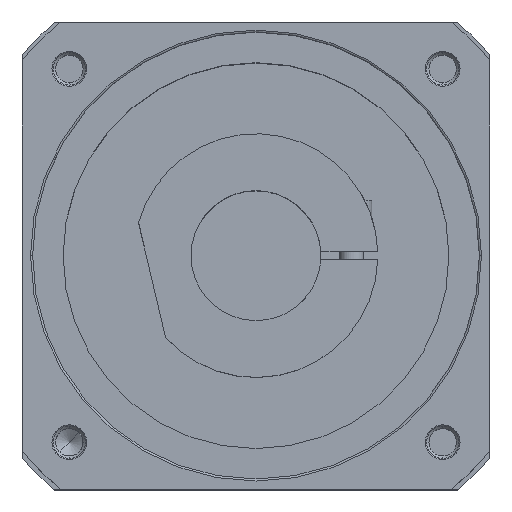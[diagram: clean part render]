
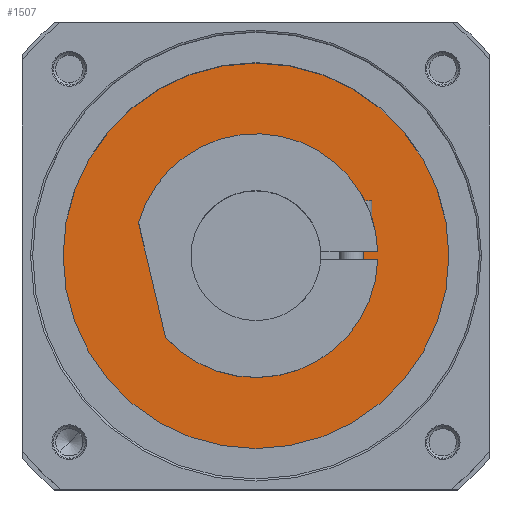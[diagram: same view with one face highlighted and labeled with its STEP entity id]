
A CAD part, top view. The second image highlights one B-rep face of the part: STEP entity #1507.
In plain terms, the highlighted planar face has unit normal (0, 0, 1).
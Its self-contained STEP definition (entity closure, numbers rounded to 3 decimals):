
#291=DIRECTION('',(-1.,0.,0.));
#292=VECTOR('',#291,7.16);
#293=CARTESIAN_POINT('',(53.12,37.46,61.));
#294=LINE('',#293,#292);
#295=CARTESIAN_POINT('',(0.,0.,61.));
#296=DIRECTION('',(0.,0.,-1.));
#297=DIRECTION('',(0.817,0.576,0.));
#298=AXIS2_PLACEMENT_3D('',#295,#296,#297);
#300=DIRECTION('',(0.,1.,0.));
#301=VECTOR('',#300,60.622);
#302=CARTESIAN_POINT('',(57.5,-30.311,61.));
#303=LINE('',#302,#301);
#304=CARTESIAN_POINT('',(0.,0.,61.));
#305=DIRECTION('',(0.,0.,-1.));
#306=DIRECTION('',(0.885,-0.466,0.));
#307=AXIS2_PLACEMENT_3D('',#304,#305,#306);
#309=DIRECTION('',(1.,0.,0.));
#310=VECTOR('',#309,7.16);
#311=CARTESIAN_POINT('',(45.96,-37.46,61.));
#312=LINE('',#311,#310);
#313=CARTESIAN_POINT('',(45.96,-45.96,61.));
#314=DIRECTION('',(0.,0.,-1.));
#315=DIRECTION('',(-1.,0.,0.));
#316=AXIS2_PLACEMENT_3D('',#313,#314,#315);
#318=DIRECTION('',(0.,1.,0.));
#319=VECTOR('',#318,7.16);
#320=CARTESIAN_POINT('',(37.46,-53.12,61.));
#321=LINE('',#320,#319);
#322=CARTESIAN_POINT('',(0.,0.,61.));
#323=DIRECTION('',(0.,0.,-1.));
#324=DIRECTION('',(0.576,-0.817,0.));
#325=AXIS2_PLACEMENT_3D('',#322,#323,#324);
#327=DIRECTION('',(1.,0.,0.));
#328=VECTOR('',#327,60.622);
#329=CARTESIAN_POINT('',(-30.311,-57.5,61.));
#330=LINE('',#329,#328);
#331=CARTESIAN_POINT('',(0.,0.,61.));
#332=DIRECTION('',(0.,0.,-1.));
#333=DIRECTION('',(-0.466,-0.885,0.));
#334=AXIS2_PLACEMENT_3D('',#331,#332,#333);
#336=DIRECTION('',(0.,-1.,0.));
#337=VECTOR('',#336,7.16);
#338=CARTESIAN_POINT('',(-37.46,-45.96,61.));
#339=LINE('',#338,#337);
#340=CARTESIAN_POINT('',(-45.96,-45.96,61.));
#341=DIRECTION('',(0.,0.,-1.));
#342=DIRECTION('',(0.,1.,0.));
#343=AXIS2_PLACEMENT_3D('',#340,#341,#342);
#345=DIRECTION('',(1.,0.,0.));
#346=VECTOR('',#345,7.16);
#347=CARTESIAN_POINT('',(-53.12,-37.46,61.));
#348=LINE('',#347,#346);
#349=CARTESIAN_POINT('',(0.,0.,61.));
#350=DIRECTION('',(0.,0.,-1.));
#351=DIRECTION('',(-0.817,-0.576,0.));
#352=AXIS2_PLACEMENT_3D('',#349,#350,#351);
#354=DIRECTION('',(0.,-1.,0.));
#355=VECTOR('',#354,60.622);
#356=CARTESIAN_POINT('',(-57.5,30.311,61.));
#357=LINE('',#356,#355);
#358=CARTESIAN_POINT('',(0.,0.,61.));
#359=DIRECTION('',(0.,0.,-1.));
#360=DIRECTION('',(-0.885,0.466,0.));
#361=AXIS2_PLACEMENT_3D('',#358,#359,#360);
#363=DIRECTION('',(-1.,0.,0.));
#364=VECTOR('',#363,7.16);
#365=CARTESIAN_POINT('',(-45.96,37.46,61.));
#366=LINE('',#365,#364);
#367=CARTESIAN_POINT('',(-45.96,45.96,61.));
#368=DIRECTION('',(0.,0.,-1.));
#369=DIRECTION('',(1.,0.,0.));
#370=AXIS2_PLACEMENT_3D('',#367,#368,#369);
#372=DIRECTION('',(0.,-1.,0.));
#373=VECTOR('',#372,7.16);
#374=CARTESIAN_POINT('',(-37.46,53.12,61.));
#375=LINE('',#374,#373);
#376=CARTESIAN_POINT('',(0.,0.,61.));
#377=DIRECTION('',(0.,0.,-1.));
#378=DIRECTION('',(-0.576,0.817,0.));
#379=AXIS2_PLACEMENT_3D('',#376,#377,#378);
#381=DIRECTION('',(-1.,0.,0.));
#382=VECTOR('',#381,60.622);
#383=CARTESIAN_POINT('',(30.311,57.5,61.));
#384=LINE('',#383,#382);
#385=CARTESIAN_POINT('',(0.,0.,61.));
#386=DIRECTION('',(0.,0.,-1.));
#387=DIRECTION('',(0.466,0.885,0.));
#388=AXIS2_PLACEMENT_3D('',#385,#386,#387);
#390=DIRECTION('',(0.,1.,0.));
#391=VECTOR('',#390,7.16);
#392=CARTESIAN_POINT('',(37.46,45.96,61.));
#393=LINE('',#392,#391);
#394=CARTESIAN_POINT('',(45.96,45.96,61.));
#395=DIRECTION('',(0.,0.,-1.));
#396=DIRECTION('',(0.,-1.,0.));
#397=AXIS2_PLACEMENT_3D('',#394,#395,#396);
#399=CARTESIAN_POINT('',(0.,0.,61.));
#400=DIRECTION('',(0.,0.,-1.));
#401=DIRECTION('',(0.,1.,0.));
#402=AXIS2_PLACEMENT_3D('',#399,#400,#401);
#404=CARTESIAN_POINT('',(0.,0.,61.));
#405=DIRECTION('',(0.,0.,-1.));
#406=DIRECTION('',(0.,-1.,0.));
#407=AXIS2_PLACEMENT_3D('',#404,#405,#406);
#948=CARTESIAN_POINT('',(53.12,37.46,61.));
#949=CARTESIAN_POINT('',(45.96,37.46,61.));
#950=VERTEX_POINT('',#948);
#951=VERTEX_POINT('',#949);
#952=CARTESIAN_POINT('',(37.46,45.96,61.));
#953=VERTEX_POINT('',#952);
#954=CARTESIAN_POINT('',(37.46,53.12,61.));
#955=VERTEX_POINT('',#954);
#956=CARTESIAN_POINT('',(-37.46,53.12,61.));
#957=CARTESIAN_POINT('',(-30.311,57.5,61.));
#958=VERTEX_POINT('',#956);
#959=VERTEX_POINT('',#957);
#960=CARTESIAN_POINT('',(30.311,57.5,61.));
#961=VERTEX_POINT('',#960);
#962=CARTESIAN_POINT('',(-37.46,45.96,61.));
#963=VERTEX_POINT('',#962);
#964=CARTESIAN_POINT('',(-45.96,37.46,61.));
#965=VERTEX_POINT('',#964);
#966=CARTESIAN_POINT('',(-53.12,37.46,61.));
#967=VERTEX_POINT('',#966);
#968=CARTESIAN_POINT('',(-53.12,-37.46,61.));
#969=CARTESIAN_POINT('',(-57.5,-30.311,61.));
#970=VERTEX_POINT('',#968);
#971=VERTEX_POINT('',#969);
#972=CARTESIAN_POINT('',(-57.5,30.311,61.));
#973=VERTEX_POINT('',#972);
#974=CARTESIAN_POINT('',(-45.96,-37.46,61.));
#975=VERTEX_POINT('',#974);
#976=CARTESIAN_POINT('',(-37.46,-45.96,61.));
#977=VERTEX_POINT('',#976);
#978=CARTESIAN_POINT('',(-37.46,-53.12,61.));
#979=VERTEX_POINT('',#978);
#980=CARTESIAN_POINT('',(37.46,-53.12,61.));
#981=CARTESIAN_POINT('',(30.311,-57.5,61.));
#982=VERTEX_POINT('',#980);
#983=VERTEX_POINT('',#981);
#984=CARTESIAN_POINT('',(-30.311,-57.5,61.));
#985=VERTEX_POINT('',#984);
#986=CARTESIAN_POINT('',(37.46,-45.96,61.));
#987=VERTEX_POINT('',#986);
#988=CARTESIAN_POINT('',(45.96,-37.46,61.));
#989=VERTEX_POINT('',#988);
#990=CARTESIAN_POINT('',(53.12,-37.46,61.));
#991=VERTEX_POINT('',#990);
#992=CARTESIAN_POINT('',(57.5,30.311,61.));
#993=VERTEX_POINT('',#992);
#994=CARTESIAN_POINT('',(57.5,-30.311,61.));
#995=VERTEX_POINT('',#994);
#1040=CARTESIAN_POINT('',(0.,22.5,61.));
#1041=CARTESIAN_POINT('',(0.,-22.5,61.));
#1042=VERTEX_POINT('',#1040);
#1043=VERTEX_POINT('',#1041);
#1449=CARTESIAN_POINT('',(0.,0.,61.));
#1450=DIRECTION('',(0.,0.,1.));
#1451=DIRECTION('',(0.,1.,0.));
#1452=AXIS2_PLACEMENT_3D('',#1449,#1450,#1451);
#1453=PLANE('',#1452);
#1455=ORIENTED_EDGE('',*,*,#1454,.F.);
#1457=ORIENTED_EDGE('',*,*,#1456,.T.);
#1459=ORIENTED_EDGE('',*,*,#1458,.F.);
#1461=ORIENTED_EDGE('',*,*,#1460,.T.);
#1463=ORIENTED_EDGE('',*,*,#1462,.F.);
#1465=ORIENTED_EDGE('',*,*,#1464,.F.);
#1467=ORIENTED_EDGE('',*,*,#1466,.F.);
#1468=ORIENTED_EDGE('',*,*,#1426,.T.);
#1469=ORIENTED_EDGE('',*,*,#1409,.F.);
#1470=ORIENTED_EDGE('',*,*,#1440,.T.);
#1472=ORIENTED_EDGE('',*,*,#1471,.F.);
#1474=ORIENTED_EDGE('',*,*,#1473,.F.);
#1476=ORIENTED_EDGE('',*,*,#1475,.F.);
#1478=ORIENTED_EDGE('',*,*,#1477,.T.);
#1480=ORIENTED_EDGE('',*,*,#1479,.F.);
#1482=ORIENTED_EDGE('',*,*,#1481,.T.);
#1484=ORIENTED_EDGE('',*,*,#1483,.F.);
#1486=ORIENTED_EDGE('',*,*,#1485,.F.);
#1488=ORIENTED_EDGE('',*,*,#1487,.F.);
#1490=ORIENTED_EDGE('',*,*,#1489,.T.);
#1492=ORIENTED_EDGE('',*,*,#1491,.F.);
#1494=ORIENTED_EDGE('',*,*,#1493,.T.);
#1496=ORIENTED_EDGE('',*,*,#1495,.F.);
#1498=ORIENTED_EDGE('',*,*,#1497,.F.);
#1499=EDGE_LOOP('',(#1455,#1457,#1459,#1461,#1463,#1465,#1467,#1468,#1469,#1470,
#1472,#1474,#1476,#1478,#1480,#1482,#1484,#1486,#1488,#1490,#1492,#1494,#1496,
#1498));
#1500=FACE_OUTER_BOUND('',#1499,.F.);
#1502=ORIENTED_EDGE('',*,*,#1501,.F.);
#1504=ORIENTED_EDGE('',*,*,#1503,.F.);
#1505=EDGE_LOOP('',(#1502,#1504));
#1506=FACE_BOUND('',#1505,.F.);
#1507=ADVANCED_FACE('',(#1500,#1506),#1453,.T.);
#299=CIRCLE('',#298,65.);
#308=CIRCLE('',#307,65.);
#317=CIRCLE('',#316,8.5);
#326=CIRCLE('',#325,65.);
#335=CIRCLE('',#334,65.);
#344=CIRCLE('',#343,8.5);
#353=CIRCLE('',#352,65.);
#362=CIRCLE('',#361,65.);
#371=CIRCLE('',#370,8.5);
#380=CIRCLE('',#379,65.);
#389=CIRCLE('',#388,65.);
#398=CIRCLE('',#397,8.5);
#403=CIRCLE('',#402,22.5);
#408=CIRCLE('',#407,22.5);
#1409=EDGE_CURVE('',#985,#983,#330,.T.);
#1426=EDGE_CURVE('',#982,#983,#326,.T.);
#1440=EDGE_CURVE('',#985,#979,#335,.T.);
#1454=EDGE_CURVE('',#950,#951,#294,.T.);
#1456=EDGE_CURVE('',#950,#993,#299,.T.);
#1458=EDGE_CURVE('',#995,#993,#303,.T.);
#1460=EDGE_CURVE('',#995,#991,#308,.T.);
#1462=EDGE_CURVE('',#989,#991,#312,.T.);
#1464=EDGE_CURVE('',#987,#989,#317,.T.);
#1466=EDGE_CURVE('',#982,#987,#321,.T.);
#1471=EDGE_CURVE('',#977,#979,#339,.T.);
#1473=EDGE_CURVE('',#975,#977,#344,.T.);
#1475=EDGE_CURVE('',#970,#975,#348,.T.);
#1477=EDGE_CURVE('',#970,#971,#353,.T.);
#1479=EDGE_CURVE('',#973,#971,#357,.T.);
#1481=EDGE_CURVE('',#973,#967,#362,.T.);
#1483=EDGE_CURVE('',#965,#967,#366,.T.);
#1485=EDGE_CURVE('',#963,#965,#371,.T.);
#1487=EDGE_CURVE('',#958,#963,#375,.T.);
#1489=EDGE_CURVE('',#958,#959,#380,.T.);
#1491=EDGE_CURVE('',#961,#959,#384,.T.);
#1493=EDGE_CURVE('',#961,#955,#389,.T.);
#1495=EDGE_CURVE('',#953,#955,#393,.T.);
#1497=EDGE_CURVE('',#951,#953,#398,.T.);
#1501=EDGE_CURVE('',#1042,#1043,#403,.T.);
#1503=EDGE_CURVE('',#1043,#1042,#408,.T.);
